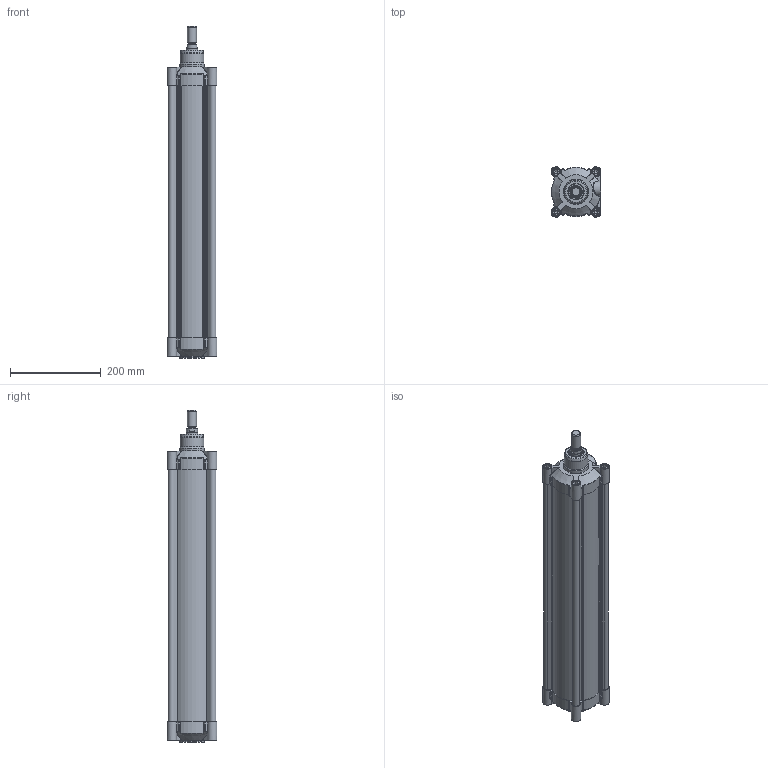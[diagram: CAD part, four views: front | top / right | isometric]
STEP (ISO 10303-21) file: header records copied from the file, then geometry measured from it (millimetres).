
FILE_DESCRIPTION(/* description */ (''),/* implementation_level */ '2;1');
FILE_NAME(/* name */ 'T:\Archivio Inventor\- 00 NUOVI STP PER SITO CON STELO CHE SI MUOVE\SERIE H - U\SERIE HDM\HDM100 - TUBO NUOVO\HDM100.500.GS.M.stp',/* time_stamp */ '2018-08-02T09:50:02+02:00',/* author */ ('carlo.corazza'),/* organization */ (''),/* preprocessor_version */ 'ST-DEVELOPER v16.5',/* originating_system */ 'Autodesk Inventor 2017',/* authorisation */ '');
FILE_SCHEMA (('AUTOMOTIVE_DESIGN { 1 0 10303 214 3 1 1 }'));
Length unit declared in the file: millimetre
Products named in the file (5): HDM100.500.GS.M; TP; TA; STELO-500; CORPO-500
Assembly tree (4 placements, depth 2):
  HDM100.500.GS.M
    TP
    TA
    STELO-500
    CORPO-500
Bounding box: 110 x 110 x 733 mm (x, y, z)
Volume: 1807603.8 mm3; surface area: 818463.1 mm2
Topology: 4 solids, 29 shells, 1355 faces, 3135 edges, 1912 vertices
Faces by surface type: plane 408, cylinder 313, bspline 270, torus 126, cone 122, sphere 116
Full cylindrical faces by diameter (mm): 5 x2, 5.9 x2, 6.5 x2, 7.25 x2, 8.376 x8, 9.4 x4, 10 x8, 10.3 x8, 11.8 x4, 11.9 x2, 12 x4, 16 x9, 16.3 x8, 17 x2, 17.5 x1, 18.631 x2, 20 x1, 24.5 x1, 25 x1, 25.8 x1, 25.962 x1, 30 x1, 31.5 x2, 35 x3, 52 x1, 55 x2, 100 x1
Entity records: 43668 total; most frequent: CARTESIAN_POINT 13702, ORIENTED_EDGE 5710, DIRECTION 5644, EDGE_CURVE 2855, AXIS2_PLACEMENT_3D 2293, VERTEX_POINT 1857, EDGE_LOOP 1690, STYLED_ITEM 1359
